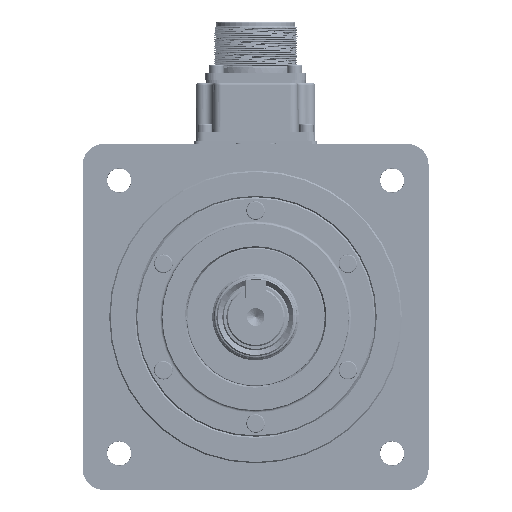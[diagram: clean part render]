
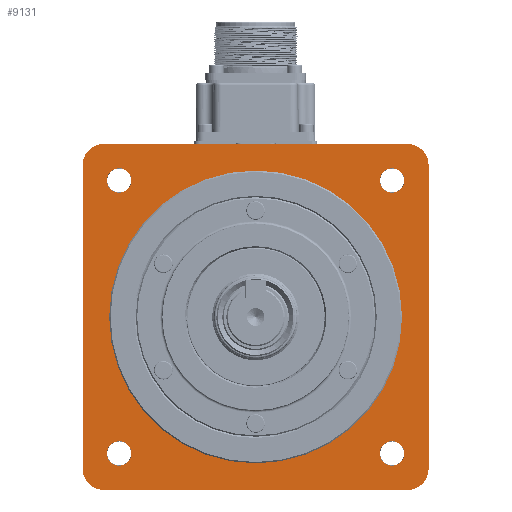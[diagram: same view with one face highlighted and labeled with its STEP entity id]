
A CAD part, front view. The second image highlights one B-rep face of the part: STEP entity #9131.
In plain terms, the highlighted planar face has unit normal (0, -1, 0).
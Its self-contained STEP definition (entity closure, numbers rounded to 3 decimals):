
#9131 = ADVANCED_FACE( '', ( #18629, #18630, #18631, #18632, #18633, #18634 ), #18635, .F. );
#18629 = FACE_BOUND( '', #39222, .T. );
#18630 = FACE_OUTER_BOUND( '', #39223, .T. );
#18631 = FACE_BOUND( '', #39224, .T. );
#18632 = FACE_BOUND( '', #39225, .T. );
#18633 = FACE_BOUND( '', #39226, .T. );
#18634 = FACE_BOUND( '', #39227, .T. );
#18635 = PLANE( '', #39228 );
#39222 = EDGE_LOOP( '', ( #65268 ) );
#39223 = EDGE_LOOP( '', ( #65269, #65270, #65271, #65272, #65273, #65274, #65275, #65276 ) );
#39224 = EDGE_LOOP( '', ( #65277 ) );
#39225 = EDGE_LOOP( '', ( #65278 ) );
#39226 = EDGE_LOOP( '', ( #65279 ) );
#39227 = EDGE_LOOP( '', ( #65280 ) );
#39228 = AXIS2_PLACEMENT_3D( '', #65281, #65282, #65283 );
#65268 = ORIENTED_EDGE( '', *, *, #69354, .F. );
#65269 = ORIENTED_EDGE( '', *, *, #72738, .F. );
#65270 = ORIENTED_EDGE( '', *, *, #72139, .T. );
#65271 = ORIENTED_EDGE( '', *, *, #76662, .F. );
#65272 = ORIENTED_EDGE( '', *, *, #73750, .T. );
#65273 = ORIENTED_EDGE( '', *, *, #71900, .F. );
#65274 = ORIENTED_EDGE( '', *, *, #74170, .T. );
#65275 = ORIENTED_EDGE( '', *, *, #76429, .F. );
#65276 = ORIENTED_EDGE( '', *, *, #77396, .T. );
#65277 = ORIENTED_EDGE( '', *, *, #77437, .F. );
#65278 = ORIENTED_EDGE( '', *, *, #75021, .F. );
#65279 = ORIENTED_EDGE( '', *, *, #75142, .F. );
#65280 = ORIENTED_EDGE( '', *, *, #74888, .F. );
#65281 = CARTESIAN_POINT( '', ( 0., 1.2, 55. ) );
#65282 = DIRECTION( '', ( 0., 1., 0. ) );
#65283 = DIRECTION( '', ( 0., 0., 1. ) );
#69354 = EDGE_CURVE( '', #79095, #79095, #79096, .T. );
#71900 = EDGE_CURVE( '', #83419, #83422, #83423, .F. );
#72139 = EDGE_CURVE( '', #83798, #83796, #83799, .T. );
#72738 = EDGE_CURVE( '', #83798, #84778, #84779, .F. );
#73750 = EDGE_CURVE( '', #86295, #83422, #86296, .T. );
#74170 = EDGE_CURVE( '', #83419, #86900, #86902, .T. );
#74888 = EDGE_CURVE( '', #87912, #87912, #87913, .F. );
#75021 = EDGE_CURVE( '', #88088, #88088, #88089, .F. );
#75142 = EDGE_CURVE( '', #88257, #88257, #88258, .F. );
#76429 = EDGE_CURVE( '', #89886, #86900, #89888, .F. );
#76662 = EDGE_CURVE( '', #86295, #83796, #90159, .F. );
#77396 = EDGE_CURVE( '', #89886, #84778, #90998, .T. );
#77437 = EDGE_CURVE( '', #91044, #91044, #91045, .F. );
#79095 = VERTEX_POINT( '', #93568 );
#79096 = CIRCLE( '', #93569, 55. );
#83419 = VERTEX_POINT( '', #104401 );
#83422 = VERTEX_POINT( '', #104405 );
#83423 = CIRCLE( '', #104406, 8. );
#83796 = VERTEX_POINT( '', #105008 );
#83798 = VERTEX_POINT( '', #105011 );
#83799 = LINE( '', #105012, #105013 );
#84778 = VERTEX_POINT( '', #107052 );
#84779 = CIRCLE( '', #107053, 8. );
#86295 = VERTEX_POINT( '', #110028 );
#86296 = LINE( '', #110029, #110030 );
#86900 = VERTEX_POINT( '', #111359 );
#86902 = LINE( '', #111362, #111363 );
#87912 = VERTEX_POINT( '', #113607 );
#87913 = CIRCLE( '', #113608, 4.6 );
#88088 = VERTEX_POINT( '', #113939 );
#88089 = CIRCLE( '', #113940, 4.6 );
#88257 = VERTEX_POINT( '', #114208 );
#88258 = CIRCLE( '', #114209, 4.6 );
#89886 = VERTEX_POINT( '', #118475 );
#89888 = CIRCLE( '', #118478, 8. );
#90159 = CIRCLE( '', #118951, 8. );
#90998 = LINE( '', #120674, #120675 );
#91044 = VERTEX_POINT( '', #120738 );
#91045 = CIRCLE( '', #120739, 4.6 );
#93568 = CARTESIAN_POINT( '', ( 0., 1.2, -55. ) );
#93569 = AXIS2_PLACEMENT_3D( '', #122141, #122142, #122143 );
#104401 = CARTESIAN_POINT( '', ( 65., 1.2, -57. ) );
#104405 = CARTESIAN_POINT( '', ( 57., 1.2, -65. ) );
#104406 = AXIS2_PLACEMENT_3D( '', #125006, #125007, #125008 );
#105008 = CARTESIAN_POINT( '', ( -65., 1.2, -57. ) );
#105011 = CARTESIAN_POINT( '', ( -65., 1.2, 57. ) );
#105012 = CARTESIAN_POINT( '', ( -65., 1.2, 65. ) );
#105013 = VECTOR( '', #125317, 1000. );
#107052 = CARTESIAN_POINT( '', ( -57., 1.2, 65. ) );
#107053 = AXIS2_PLACEMENT_3D( '', #125894, #125895, #125896 );
#110028 = CARTESIAN_POINT( '', ( -57., 1.2, -65. ) );
#110029 = CARTESIAN_POINT( '', ( -65., 1.2, -65. ) );
#110030 = VECTOR( '', #126897, 1000. );
#111359 = CARTESIAN_POINT( '', ( 65., 1.2, 57. ) );
#111362 = CARTESIAN_POINT( '', ( 65., 1.2, -65. ) );
#111363 = VECTOR( '', #127283, 1000. );
#113607 = CARTESIAN_POINT( '', ( 51.265, 1.2, 55.866 ) );
#113608 = AXIS2_PLACEMENT_3D( '', #128007, #128008, #128009 );
#113939 = CARTESIAN_POINT( '', ( -51.265, 1.2, -46.665 ) );
#113940 = AXIS2_PLACEMENT_3D( '', #128132, #128133, #128134 );
#114208 = CARTESIAN_POINT( '', ( 51.265, 1.2, -46.665 ) );
#114209 = AXIS2_PLACEMENT_3D( '', #128253, #128254, #128255 );
#118475 = CARTESIAN_POINT( '', ( 57., 1.2, 65. ) );
#118478 = AXIS2_PLACEMENT_3D( '', #129444, #129445, #129446 );
#118951 = AXIS2_PLACEMENT_3D( '', #129611, #129612, #129613 );
#120674 = CARTESIAN_POINT( '', ( 65., 1.2, 65. ) );
#120675 = VECTOR( '', #130145, 1000. );
#120738 = CARTESIAN_POINT( '', ( -51.265, 1.2, 55.866 ) );
#120739 = AXIS2_PLACEMENT_3D( '', #130169, #130170, #130171 );
#122141 = CARTESIAN_POINT( '', ( 0., 1.2, 0. ) );
#122142 = DIRECTION( '', ( 0., -1., 0. ) );
#122143 = DIRECTION( '', ( 0., 0., -1. ) );
#125006 = CARTESIAN_POINT( '', ( 57., 1.2, -57. ) );
#125007 = DIRECTION( '', ( 0., -1., 0. ) );
#125008 = DIRECTION( '', ( 0., 0., -1. ) );
#125317 = DIRECTION( '', ( 0., 0., -1. ) );
#125894 = CARTESIAN_POINT( '', ( -57., 1.2, 57. ) );
#125895 = DIRECTION( '', ( 0., -1., 0. ) );
#125896 = DIRECTION( '', ( 0., 0., -1. ) );
#126897 = DIRECTION( '', ( 1., 0., 0. ) );
#127283 = DIRECTION( '', ( 0., 0., 1. ) );
#128007 = CARTESIAN_POINT( '', ( 51.265, 1.2, 51.265 ) );
#128008 = DIRECTION( '', ( 0., 1., 0. ) );
#128009 = DIRECTION( '', ( 0., 0., 1. ) );
#128132 = CARTESIAN_POINT( '', ( -51.265, 1.2, -51.265 ) );
#128133 = DIRECTION( '', ( 0., 1., 0. ) );
#128134 = DIRECTION( '', ( 0., 0., 1. ) );
#128253 = CARTESIAN_POINT( '', ( 51.265, 1.2, -51.265 ) );
#128254 = DIRECTION( '', ( 0., 1., 0. ) );
#128255 = DIRECTION( '', ( 0., 0., 1. ) );
#129444 = CARTESIAN_POINT( '', ( 57., 1.2, 57. ) );
#129445 = DIRECTION( '', ( 0., -1., 0. ) );
#129446 = DIRECTION( '', ( 0., 0., -1. ) );
#129611 = CARTESIAN_POINT( '', ( -57., 1.2, -57. ) );
#129612 = DIRECTION( '', ( 0., -1., 0. ) );
#129613 = DIRECTION( '', ( 0., 0., -1. ) );
#130145 = DIRECTION( '', ( -1., 0., 0. ) );
#130169 = CARTESIAN_POINT( '', ( -51.265, 1.2, 51.265 ) );
#130170 = DIRECTION( '', ( 0., 1., 0. ) );
#130171 = DIRECTION( '', ( 0., 0., 1. ) );
